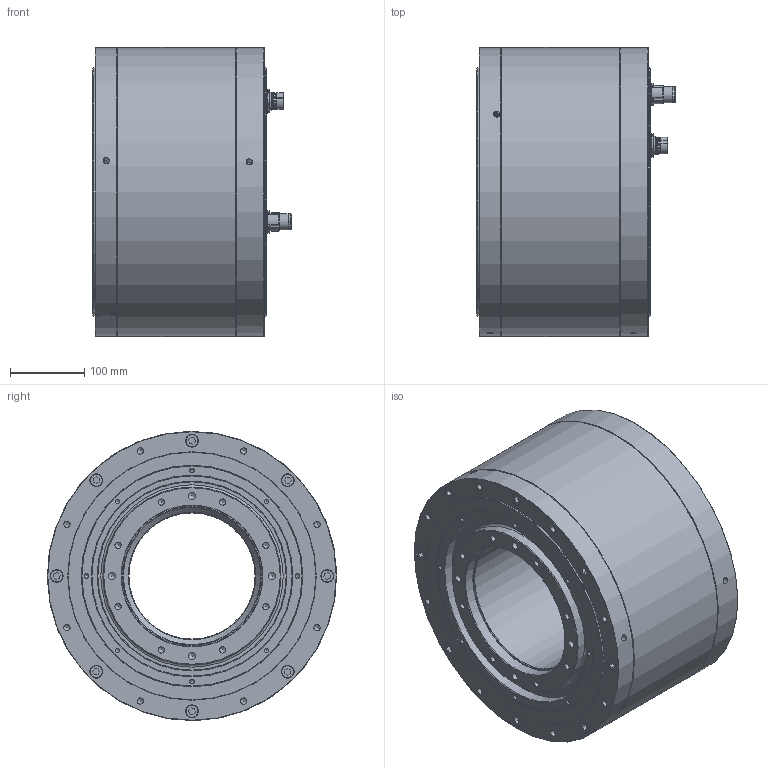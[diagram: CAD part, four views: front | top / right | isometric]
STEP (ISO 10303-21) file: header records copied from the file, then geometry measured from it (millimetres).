
FILE_DESCRIPTION( ( 'Unknown' ), '1' );
FILE_NAME( 'Q:/SKA DDR in acciaio/WEB File/SKA RT 335/3D/335CC047.stp', 'Unknown', ( 'Unknown' ), ( 'Unknown' ), 'PSStep 14.0', 'Unknown', ' ' );
FILE_SCHEMA( ( 'AUTOMOTIVE_DESIGN { 1 0 10303 214 1 1 1 1 }' ) );
Length unit declared in the file: millimetre
Products named in the file (18): Assem1; CN M23 PAN-POT BEGA 120 4 + 4 pin SpTcR; CN M23 PAN-SEG AEGA 139 17 pin SpTcR; 335FF019; 335VV017; 335FP006_rev3; 335FC001_rev3; Vite a brugola testa cil 12,9 -  M 10 x 40; Vite a brugola testa cil 8,8 -  M  4 x 8; Vite a brugola testa cil 8,8 -  M 2,5 x 8; Vite a brugola testa svasata 10,9 -  M  4 x 14; Vite a brugola testa cil 12,9 -  M 10 x 45; Anello OR 3 D270-oa0; Anello OR 3,53 D329,8-41300-oa1; Anello OR 3,53 D329,8-41300-oa2; Grano senza punta M  6 x 10; 335FS019; 335GG017_rev3
Assembly tree (54 placements, depth 2):
  Assem1
    CN M23 PAN-POT BEGA 120 4 + 4 pin SpTcR
    CN M23 PAN-SEG AEGA 139 17 pin SpTcR
    335FF019
    335VV017
    335FP006_rev3
    335FC001_rev3
    Vite a brugola testa cil 12,9 -  M 10 x 40  x8
    Vite a brugola testa cil 8,8 -  M  4 x 8  x2
    Vite a brugola testa cil 8,8 -  M 2,5 x 8  x15
    Vite a brugola testa svasata 10,9 -  M  4 x 14  x8
    Vite a brugola testa cil 12,9 -  M 10 x 45  x8
    Anello OR 3 D270-oa0
    Anello OR 3,53 D329,8-41300-oa1
    Anello OR 3,53 D329,8-41300-oa2
    Grano senza punta M  6 x 10  x2
    335FS019
    335GG017_rev3
Bounding box: 267.5 x 390 x 390 mm (x, y, z)
Volume: 13799345.7 mm3; surface area: 1623009.4 mm2
Topology: 54 solids, 54 shells, 1208 faces, 2707 edges, 1762 vertices
Faces by surface type: plane 569, cylinder 396, cone 203, torus 32, sphere 8
Full cylindrical faces by diameter (mm): 1.5 x4, 2 x17, 2.013 x8, 2.5 x19, 2.7 x4, 2.8 x4, 3.242 x20, 3.4 x8, 4 x12, 4.134 x12, 4.5 x8, 4.7 x15, 4.917 x2, 6 x10, 7 x2, 8.376 x68, 8.5 x8, 9 x2, 10 x24, 10.5 x24, 16 x16, 17 x2, 17.5 x16, 19.8 x2, 20 x3, 21 x2, 21.5 x2, 22 x2, 23 x2, 170 x1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
Entity records: 21970 total; most frequent: CARTESIAN_POINT 3286, DIRECTION 3158, ORIENTED_EDGE 1968, AXIS2_PLACEMENT_3D 1446, EDGE_LOOP 1386, FACE_OUTER_BOUND 1018, EDGE_CURVE 984, VERTEX_POINT 938
